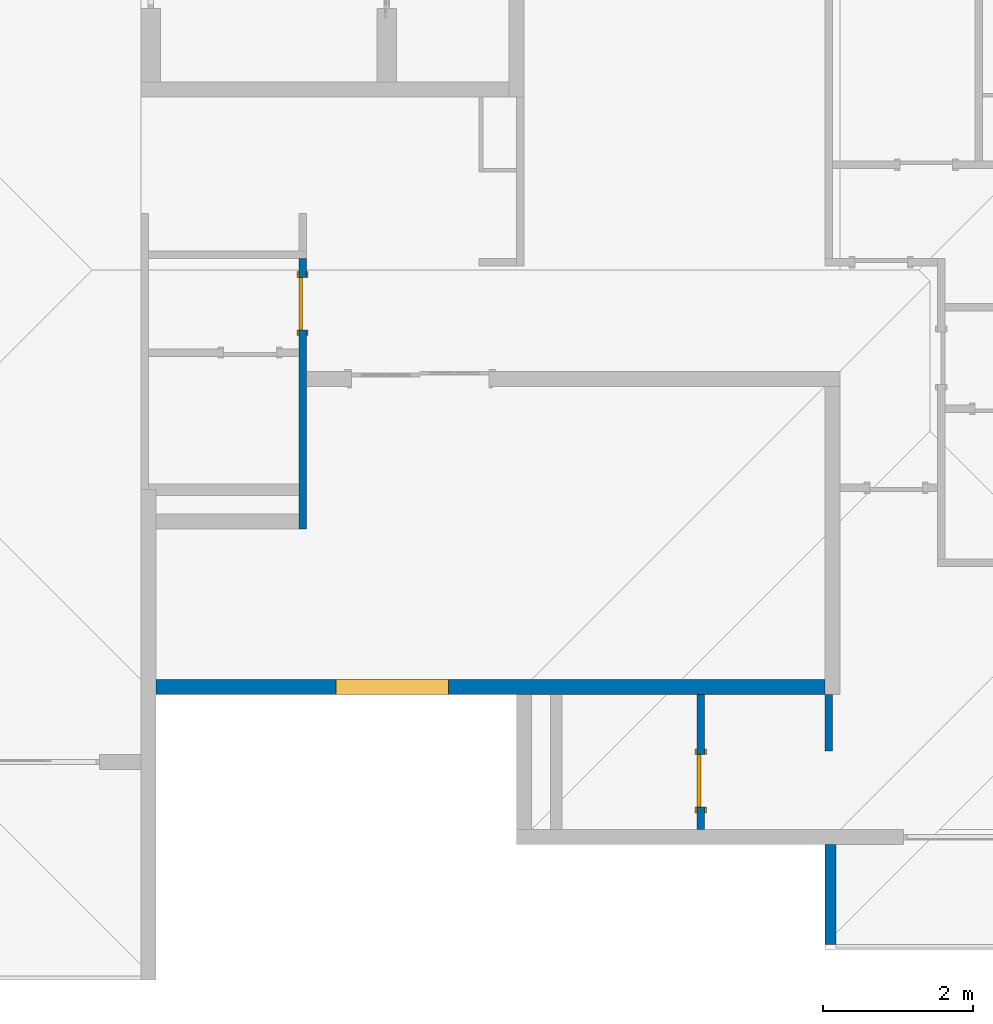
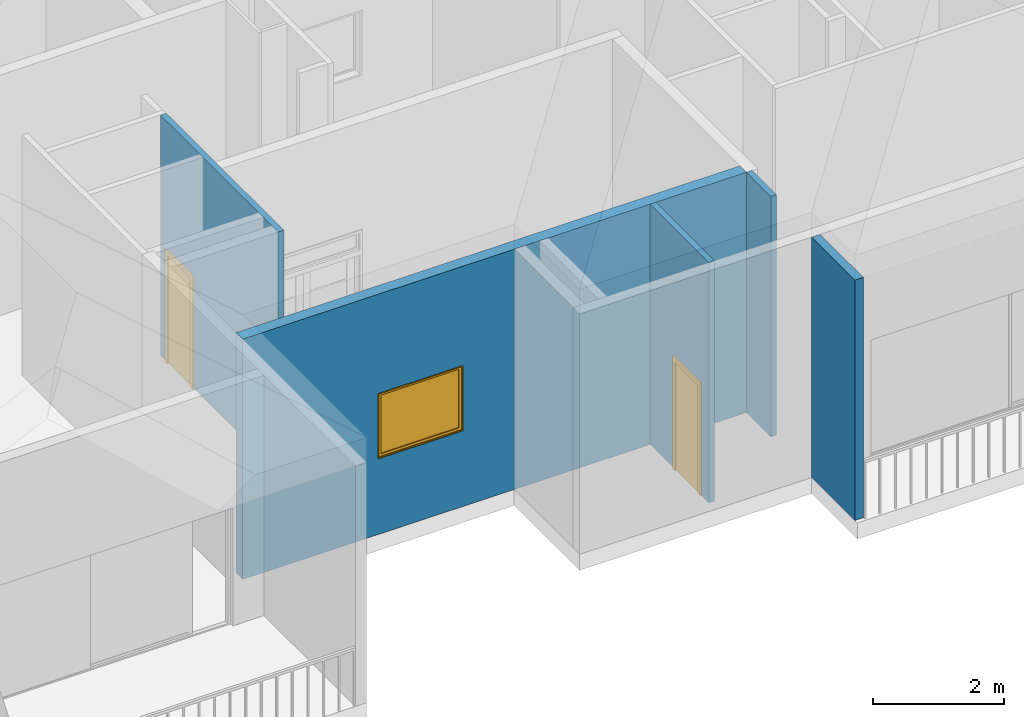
# One storey, part 2 of 8: 5 walls, 2 doors, 1 window, 3 openings.
"""IFC2X3 building model written with IfcOpenShell, lengths in metres."""

from ifc_helpers import new_model, entity, si_unit, converted_unit, derived_unit, direction, frame, frame_2d, origin, origin_2d_with_axis, place, context, subcontext, project, spatial, polyline, rectangle, outline, extrude, source, transform, mapped, material, material_list, layer, layer_set, layer_usage, type_object, type_shapes, element, fill, save


model = new_model("IFC2X3")

# Units and contexts
model_context = context("Model", 3, precision=1e-05, world=origin(), true_north=direction((6.123031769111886e-17, 1.0)))
body_context = subcontext(model_context, "Body", "Model", "MODEL_VIEW")
ifc_project = project(units=[si_unit("LENGTHUNIT", "METRE"), si_unit("AREAUNIT", "SQUARE_METRE"), si_unit("VOLUMEUNIT", "CUBIC_METRE"), converted_unit("PLANEANGLEUNIT", "DEGREE", entity("IfcRatioMeasure", 0.017453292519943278), si_unit("PLANEANGLEUNIT", "RADIAN"), dimensions=[0, 0, 0, 0, 0, 0, 0]), si_unit("MASSUNIT", "GRAM", prefix="KILO"), derived_unit("MASSDENSITYUNIT", [(si_unit("MASSUNIT", "GRAM", prefix="KILO"), 1), (si_unit("LENGTHUNIT", "METRE"), -3)]), derived_unit("MOMENTOFINERTIAUNIT", [(si_unit("LENGTHUNIT", "METRE"), 4)]), si_unit("TIMEUNIT", "SECOND"), si_unit("FREQUENCYUNIT", "HERTZ"), si_unit("THERMODYNAMICTEMPERATUREUNIT", "DEGREE_CELSIUS"), derived_unit("THERMALTRANSMITTANCEUNIT", [(si_unit("MASSUNIT", "GRAM", prefix="KILO"), 1), (si_unit("THERMODYNAMICTEMPERATUREUNIT", "KELVIN"), -1), (si_unit("TIMEUNIT", "SECOND"), -3)]), derived_unit("VOLUMETRICFLOWRATEUNIT", [(si_unit("LENGTHUNIT", "METRE"), 3), (si_unit("TIMEUNIT", "SECOND"), -1)]), derived_unit("MASSFLOWRATEUNIT", [(si_unit("MASSUNIT", "GRAM", prefix="KILO"), 1), (si_unit("TIMEUNIT", "SECOND"), -1)]), derived_unit("ROTATIONALFREQUENCYUNIT", [(si_unit("TIMEUNIT", "SECOND"), -1)]), si_unit("ELECTRICCURRENTUNIT", "AMPERE"), si_unit("ELECTRICVOLTAGEUNIT", "VOLT"), si_unit("POWERUNIT", "WATT"), si_unit("FORCEUNIT", "NEWTON", prefix="KILO"), si_unit("ILLUMINANCEUNIT", "LUX"), si_unit("LUMINOUSFLUXUNIT", "LUMEN"), si_unit("LUMINOUSINTENSITYUNIT", "CANDELA"), derived_unit("USERDEFINED", [(si_unit("MASSUNIT", "GRAM", prefix="KILO"), -1), (si_unit("LENGTHUNIT", "METRE"), -2), (si_unit("TIMEUNIT", "SECOND"), 3), (si_unit("LUMINOUSFLUXUNIT", "LUMEN"), 1)]), derived_unit("SOUNDPOWERUNIT", [(si_unit("MASSUNIT", "GRAM", prefix="KILO"), 1), (si_unit("LENGTHUNIT", "METRE"), 2), (si_unit("TIMEUNIT", "SECOND"), -3)]), derived_unit("SOUNDPRESSUREUNIT", [(si_unit("MASSUNIT", "GRAM", prefix="KILO"), 1), (si_unit("LENGTHUNIT", "METRE"), -1), (si_unit("TIMEUNIT", "SECOND"), -2)]), derived_unit("LINEARVELOCITYUNIT", [(si_unit("LENGTHUNIT", "METRE"), 1), (si_unit("TIMEUNIT", "SECOND"), -1)]), si_unit("PRESSUREUNIT", "PASCAL"), derived_unit("USERDEFINED", [(si_unit("LENGTHUNIT", "METRE"), -2), (si_unit("MASSUNIT", "GRAM", prefix="KILO"), 1), (si_unit("TIMEUNIT", "SECOND"), -2)]), derived_unit("LINEARFORCEUNIT", [(si_unit("MASSUNIT", "GRAM", prefix="KILO"), 1), (si_unit("LENGTHUNIT", "METRE"), 1), (si_unit("TIMEUNIT", "SECOND"), -2), (si_unit("LENGTHUNIT", "METRE"), -1)]), derived_unit("PLANARFORCEUNIT", [(si_unit("MASSUNIT", "GRAM", prefix="KILO"), 1), (si_unit("LENGTHUNIT", "METRE"), 1), (si_unit("TIMEUNIT", "SECOND"), -2), (si_unit("LENGTHUNIT", "METRE"), -2)])], contexts=[model_context])

# Site, building, storey
site_placement = place(None, origin())
site = spatial("IfcSite", under=ifc_project, at=site_placement, Name="Default", CompositionType="ELEMENT")
building_placement = place(site_placement, origin())
building = spatial("IfcBuilding", under=site, at=building_placement, CompositionType="ELEMENT")
storey_placement = place(building_placement, frame((0.0, 0.0, 5.639999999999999)))
storey = spatial("IfcBuildingStorey", under=building, at=storey_placement, Name="F1", CompositionType="ELEMENT", Elevation=5.639999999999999)

# Wall, opening, window
ifc_material_1 = material(Name="Masonry - Concrete Block")
ifc_layer_1 = layer(ifc_material_1, 0.2)
ifc_layer_set_1 = layer_set([ifc_layer_1], Name="Basic Wall:CW 200")
ifc_layer_usage_1 = layer_usage(ifc_layer_set_1, "AXIS2", "NEGATIVE", 0.1)
wall_type_1 = type_object("IfcWallType", Name="Basic Wall:CW 200", PredefinedType="STANDARD", material=ifc_layer_set_1)
wall_1_placement = place(storey_placement, frame((22.00768321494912, -5.20029257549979, 0.0), z_axis=(0.0, 0.0, 1.0), x_axis=(-1.0, 0.0, 0.0)))
wall_1 = element("IfcWallStandardCase", 1, at=wall_1_placement, inside=storey, type_object=wall_type_1, material=ifc_layer_usage_1, Name="Basic Wall:CW 200", ObjectType="Basic Wall:CW 200", context=body_context, shape_type="SweptSolid", body=[
    extrude(rectangle(XDim=8.900000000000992, YDim=0.2, at=frame_2d((4.450000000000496, -4.163336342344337e-17), x_axis=(-1.0, 0.0))), origin(), (0.0, 0.0, 1.0), 4.490000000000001),
])
opening_1_placement = place(wall_1_placement, frame((5.007500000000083, -0.10000000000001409, 1.4150000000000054)))
opening_1 = element("IfcOpeningElement", 2, at=opening_1_placement, cuts=wall_1, Name="M_Fixed:0915 x 1220mm:1", ObjectType="Opening", context=body_context, shape_type="SweptSolid", body=[
    extrude(rectangle(XDim=1.2199999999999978, YDim=1.4999999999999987, at=frame_2d((0.6099999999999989, 0.7499999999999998), x_axis=(1.0, 0.0))), frame((0.0, 0.0, 0.0), z_axis=(0.0, 1.0, 0.0), x_axis=(0.0, 0.0, 1.0)), (0.0, 0.0, 1.0), 0.2),
])
ifc_material_2 = material(Name="Glass")
ifc_material_3 = material(Name="Sash")
ifc_material_list_1 = material_list([ifc_material_2, ifc_material_3, ifc_material_3, ifc_material_3])
ifc_material_list_2 = material_list([ifc_material_2, ifc_material_3, ifc_material_3, ifc_material_3])
window_style = type_object("IfcWindowStyle", Name="M_Fixed:0915 x 1220mm", ConstructionType="NOTDEFINED", OperationType="NOTDEFINED", ParameterTakesPrecedence=False, Sizeable=False, material=ifc_material_list_2)
shared_shape_1 = source(origin(), body_context, "Body", "SweptSolid", [
    extrude(rectangle(XDim=0.011999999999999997, YDim=1.3739999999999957, at=frame_2d((8.239936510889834e-18, 0.0), x_axis=(1.0, 0.0))), frame((0.7500000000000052, 0.15899999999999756, 0.06299999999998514), z_axis=(0.0, 0.0, 1.0), x_axis=(0.0, -1.0, 0.0)), (0.0, 0.0, 1.0), 1.0940000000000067),
    extrude(outline(polyline([(-0.7309999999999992, -0.5910000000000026), (0.7309999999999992, -0.5910000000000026), (0.7309999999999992, 0.5910000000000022), (-0.7309999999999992, 0.5910000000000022), (-0.7309999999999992, -0.5910000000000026)]), holes=[polyline([(-0.686999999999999, -0.5470000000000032), (-0.686999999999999, 0.5470000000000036), (0.6869999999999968, 0.5470000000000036), (0.6869999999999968, -0.5470000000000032), (-0.686999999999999, -0.5470000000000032)])]), frame((0.7500000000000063, 0.13699999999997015, 0.6099999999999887), z_axis=(0.0, 1.0, 0.0), x_axis=(1.0, 0.0, 0.0)), (0.0, 0.0, 1.0), 0.04400000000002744),
    extrude(outline(polyline([(-0.749999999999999, -0.609999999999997), (0.749999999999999, -0.609999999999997), (0.749999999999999, 0.609999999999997), (-0.749999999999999, 0.609999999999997), (-0.749999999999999, -0.609999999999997)]), holes=[polyline([(-0.7310000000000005, -0.5909999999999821), (-0.7310000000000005, 0.5910000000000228), (0.7309999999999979, 0.5910000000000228), (0.7309999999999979, -0.5909999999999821), (-0.7310000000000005, -0.5909999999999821)])]), frame((0.7500000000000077, 0.13699999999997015, 0.6100000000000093), z_axis=(0.0, 1.0, 0.0), x_axis=(1.0, 0.0, 0.0)), (0.0, 0.0, 1.0), 0.06300000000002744),
    extrude(outline(polyline([(-0.7499999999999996, -0.6099999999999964), (0.7499999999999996, -0.6099999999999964), (0.7499999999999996, 0.6099999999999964), (-0.7499999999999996, 0.6099999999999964), (-0.7499999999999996, -0.6099999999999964)]), holes=[polyline([(-0.7179999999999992, -0.5779999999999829), (-0.7179999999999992, 0.5780000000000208), (0.7179999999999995, 0.5780000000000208), (0.7179999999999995, -0.5779999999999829), (-0.7179999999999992, -0.5779999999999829)])]), frame((0.750000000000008, 0.0, 0.6100000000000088), z_axis=(0.0, 1.0, 0.0), x_axis=(1.0, 0.0, 0.0)), (0.0, 0.0, 1.0), 0.1369999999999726),
])
type_shapes(window_style, [shared_shape_1])
window_placement = place(opening_1_placement, origin())
window = element("IfcWindow", 3, at=window_placement, inside=storey, type_object=window_style, material=ifc_material_list_1, Name="M_Fixed:0915 x 1220mm", ObjectType="M_Fixed:0915 x 1220mm", OverallHeight=1.2199999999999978, OverallWidth=1.4999999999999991, context=body_context, shape_type="MappedRepresentation", body=[
    mapped(shared_shape_1, transform((0.0, 0.0, 0.0), scale=1.0)),
])
fill(opening_1, window)

# Wall, opening, door
ifc_layer_2 = layer(ifc_material_1, 0.1)
ifc_layer_set_2 = layer_set([ifc_layer_2], Name="Basic Wall:CW 100")
ifc_layer_usage_2 = layer_usage(ifc_layer_set_2, "AXIS2", "NEGATIVE", 0.05)
wall_type_2 = type_object("IfcWallType", Name="Basic Wall:CW 100", PredefinedType="STANDARD", material=ifc_layer_set_2)
wall_2_placement = place(storey_placement, frame((15.057683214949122, 0.5026070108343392, 0.0), z_axis=(0.0, 0.0, 1.0), x_axis=(0.0, -1.0, 0.0)))
wall_2 = element("IfcWallStandardCase", 4, at=wall_2_placement, inside=storey, type_object=wall_type_2, material=ifc_layer_usage_2, Name="Basic Wall:CW 100", ObjectType="Basic Wall:CW 100", context=body_context, shape_type="SweptSolid", body=[
    extrude(rectangle(XDim=3.5999999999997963, YDim=0.10000000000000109, at=frame_2d((1.7999999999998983, -8.916478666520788e-16), x_axis=(1.0, 0.0))), origin(), (0.0, 0.0, 1.0), 4.490000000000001),
])
opening_2_placement = place(wall_2_placement, frame((0.9500000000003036, 0.04999999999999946, 0.0)))
opening_2 = element("IfcOpeningElement", 5, at=opening_2_placement, cuts=wall_2, Name="M_Single-Flush:0762 x 2032mm:1", ObjectType="Opening", context=body_context, shape_type="SweptSolid", body=[
    extrude(rectangle(XDim=0.7, YDim=2.0319999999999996, at=frame_2d((1.0159999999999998, 0.34999999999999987), x_axis=(0.0, 1.0))), frame((0.0, 0.0, 0.0), z_axis=(0.0, -1.0, 0.0), x_axis=(0.0, 0.0, 1.0)), (0.0, 0.0, 1.0), 0.1),
])
ifc_material_4 = material(Name="Door - Frame")
ifc_material_5 = material(Name="Door - Panel")
ifc_material_list_3 = material_list([ifc_material_4, ifc_material_5])
ifc_material_list_4 = material_list([ifc_material_4, ifc_material_4, ifc_material_5])
door_style = type_object("IfcDoorStyle", Name="M_Single-Flush:0762 x 2032mm", ConstructionType="NOTDEFINED", OperationType="NOTDEFINED", ParameterTakesPrecedence=False, Sizeable=False, material=ifc_material_list_4)
shared_shape_2 = source(origin(), body_context, "Body", "SweptSolid", [
    extrude(outline(polyline([(-0.426, -1.0729999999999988), (0.4259999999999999, -1.0729999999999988), (0.4259999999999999, 1.0350000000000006), (0.3499999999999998, 1.0350000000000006), (0.3499999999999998, -0.9970000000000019), (-0.3499999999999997, -0.9970000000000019), (-0.3499999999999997, 1.0350000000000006), (-0.426, 1.0350000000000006), (-0.426, -1.0729999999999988)])), frame((0.3500000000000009, 0.10000000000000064, 1.0350000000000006), z_axis=(0.0, 1.0, 0.0), x_axis=(1.0, 0.0, 0.0)), (0.0, 0.0, 1.0), 0.024999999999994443),
    extrude(outline(polyline([(-1.0729999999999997, -0.42599999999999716), (1.0349999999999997, -0.42599999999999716), (1.0349999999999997, -0.3500000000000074), (-0.9969999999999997, -0.3500000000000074), (-0.9969999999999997, 0.35000000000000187), (1.0349999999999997, 0.35000000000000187), (1.0349999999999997, 0.4260000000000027), (-1.0729999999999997, 0.4260000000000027), (-1.0729999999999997, -0.42599999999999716)])), frame((0.35000000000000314, -0.025000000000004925, 1.0349999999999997), z_axis=(0.0, 1.0, 0.0), x_axis=(0.0, 0.0, -1.0)), (0.0, 0.0, 1.0), 0.025000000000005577),
    extrude(rectangle(XDim=0.051000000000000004, YDim=0.6999999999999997, at=origin_2d_with_axis()), frame((0.3500000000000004, 0.07450000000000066, 0.0), z_axis=(0.0, 0.0, 1.0), x_axis=(0.0, 1.0, 0.0)), (0.0, 0.0, 1.0), 2.0319999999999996),
])
type_shapes(door_style, [shared_shape_2])
door_1_placement = place(opening_2_placement, frame((0.0, 0.0, 0.0), z_axis=(0.0, 0.0, 1.0), x_axis=(-1.0, 0.0, 0.0)))
door_1 = element("IfcDoor", 6, at=door_1_placement, inside=storey, type_object=door_style, material=ifc_material_list_3, Name="M_Single-Flush:0762 x 2032mm", ObjectType="M_Single-Flush:0762 x 2032mm", OverallHeight=2.0319999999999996, OverallWidth=0.7, context=body_context, shape_type="MappedRepresentation", body=[
    mapped(shared_shape_2, transform((0.0, 0.0, 0.0), scale=1.0)),
])
fill(opening_2, door_1)

ifc_layer_usage_3 = layer_usage(ifc_layer_set_2, "AXIS2", "NEGATIVE", 0.05)
wall_3_placement = place(storey_placement, frame((20.357683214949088, -5.3002925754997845, 0.0), z_axis=(0.0, 0.0, 1.0), x_axis=(0.0, -1.0, 0.0)))
wall_3 = element("IfcWallStandardCase", 7, at=wall_3_placement, inside=storey, type_object=wall_type_2, material=ifc_layer_usage_3, Name="Basic Wall:CW 100", ObjectType="Basic Wall:CW 100", context=body_context, shape_type="SweptSolid", body=[
    extrude(rectangle(XDim=1.7971004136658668, YDim=0.09999999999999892, at=frame_2d((0.8985502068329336, 2.1649348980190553e-15), x_axis=(1.0, 0.0))), origin(), (0.0, 0.0, 1.0), 4.490000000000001),
])
opening_3_placement = place(wall_3_placement, frame((1.497100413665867, 0.04999999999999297, 0.0)))
opening_3 = element("IfcOpeningElement", 8, at=opening_3_placement, cuts=wall_3, Name="M_Single-Flush:0762 x 2032mm:1", ObjectType="Opening", context=body_context, shape_type="SweptSolid", body=[
    extrude(rectangle(XDim=0.6999999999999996, YDim=2.0319999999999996, at=frame_2d((1.0159999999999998, 0.3500000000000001), x_axis=(0.0, 1.0))), frame((0.0, 0.0, 0.0), z_axis=(0.0, -1.0, 0.0), x_axis=(0.0, 0.0, 1.0)), (0.0, 0.0, 1.0), 0.1),
])
ifc_material_list_5 = material_list([ifc_material_4, ifc_material_5])
door_2_placement = place(opening_3_placement, frame((0.0, 0.0, 0.0), z_axis=(0.0, 0.0, 1.0), x_axis=(-1.0, 0.0, 0.0)))
door_2 = element("IfcDoor", 9, at=door_2_placement, inside=storey, type_object=door_style, material=ifc_material_list_5, Name="M_Single-Flush:0762 x 2032mm", ObjectType="M_Single-Flush:0762 x 2032mm", OverallHeight=2.0319999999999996, OverallWidth=0.7000000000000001, context=body_context, shape_type="MappedRepresentation", body=[
    mapped(shared_shape_2, transform((0.0, 0.0, 0.0), scale=1.0)),
])
fill(opening_3, door_2)

# Walls
ifc_layer_usage_4 = layer_usage(ifc_layer_set_2, "AXIS2", "NEGATIVE", 0.05)
wall_4_placement = place(storey_placement, frame((22.05768321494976, -5.30029257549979, 0.0), z_axis=(0.0, 0.0, 1.0), x_axis=(0.0, -1.0, 0.0)))
element("IfcWallStandardCase", 10, at=wall_4_placement, inside=storey, type_object=wall_type_2, material=ifc_layer_usage_4, Name="Basic Wall:CW 100", ObjectType="Basic Wall:CW 100", context=body_context, shape_type="SweptSolid", body=[
    extrude(rectangle(XDim=0.7471004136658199, YDim=0.10000000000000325, at=frame_2d((0.37355020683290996, 0.0), x_axis=(-1.0, 0.0))), origin(), (0.0, 0.0, 1.0), 4.490000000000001),
])
ifc_layer_3 = layer(ifc_material_1, 0.14999999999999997)
ifc_layer_set_3 = layer_set([ifc_layer_3], Name="Basic Wall:CW 150")
ifc_layer_usage_5 = layer_usage(ifc_layer_set_3, "AXIS2", "NEGATIVE", 0.07499999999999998)
wall_type_3 = type_object("IfcWallType", Name="Basic Wall:CW 150", PredefinedType="STANDARD", material=ifc_layer_set_3)
wall_5_placement = place(storey_placement, frame((22.082683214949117, -7.297392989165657, 0.0), z_axis=(0.0, 0.0, 1.0), x_axis=(0.0, -1.0, 0.0)))
element("IfcWallStandardCase", 11, at=wall_5_placement, inside=storey, type_object=wall_type_3, material=ifc_layer_usage_5, Name="Basic Wall:CW 150", ObjectType="Basic Wall:CW 150", context=body_context, shape_type="SweptSolid", body=[
    extrude(rectangle(XDim=1.3250000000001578, YDim=0.15000000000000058, at=frame_2d((0.6625000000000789, -1.1102230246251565e-16), x_axis=(-1.0, 0.0))), origin(), (0.0, 0.0, 1.0), 4.490000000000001),
])

save(model, "model.ifc")
